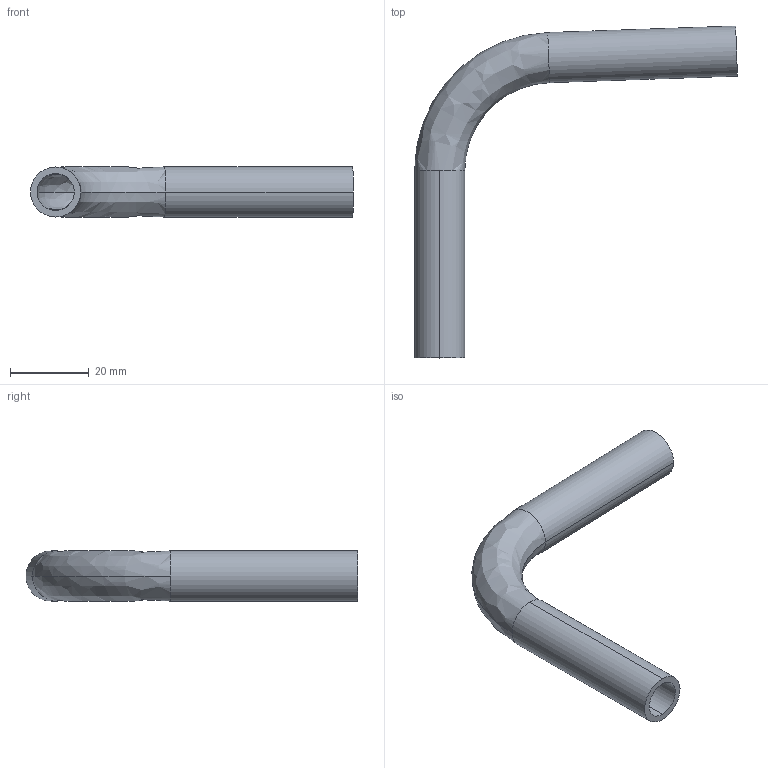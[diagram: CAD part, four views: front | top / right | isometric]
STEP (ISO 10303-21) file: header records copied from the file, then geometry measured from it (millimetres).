
FILE_DESCRIPTION (( 'STEP AP214' ), '1' );
FILE_NAME ('TE2S886L.5-...STEP', '2016-05-22T08:35:12', ( 'eran' ), ( '' ), 'SwSTEP 2.0', 'SolidWorks 2016', '' );
FILE_SCHEMA (( 'AUTOMOTIVE_DESIGN' ));
Length unit declared in the file: millimetre
Products named in the file (1): TE2S886L.5-..
Bounding box: 81.75 x 84.07 x 12.7 mm (x, y, z)
Volume: 7962.3 mm3; surface area: 9765.9 mm2
Topology: 1 solids, 1 shells, 14 faces, 32 edges, 20 vertices
Faces by surface type: cylinder 8, bspline 4, plane 2
Entity records: 490 total; most frequent: CARTESIAN_POINT 127, DIRECTION 78, ORIENTED_EDGE 64, AXIS2_PLACEMENT_3D 35, EDGE_CURVE 32, CIRCLE 24, VERTEX_POINT 20, EDGE_LOOP 16
